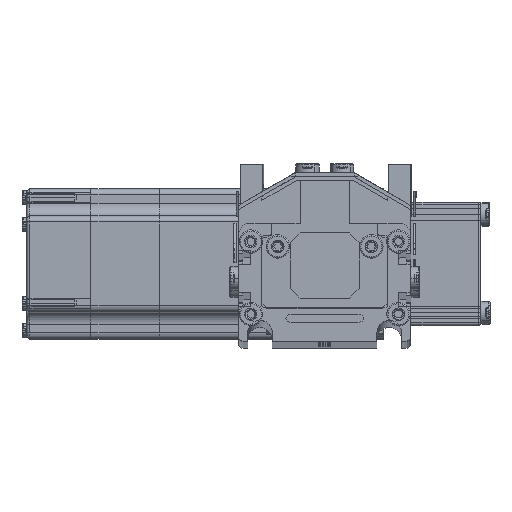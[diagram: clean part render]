
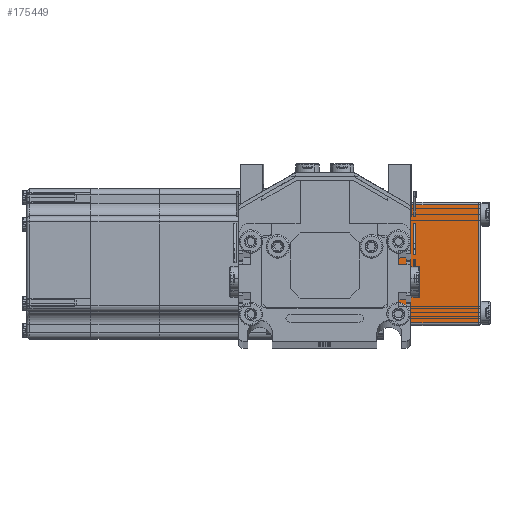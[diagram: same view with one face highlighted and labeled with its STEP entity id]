
A CAD part, top view. The second image highlights one B-rep face of the part: STEP entity #175449.
In plain terms, the highlighted planar face has unit normal (0, 0, 1) as drawn and (-1, 0, 0) by its records, which use the part's own axes.
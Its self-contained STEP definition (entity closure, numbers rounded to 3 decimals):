
#61481 = CARTESIAN_POINT ( 'NONE',  ( -50., -24., 0. ) ) ;
#62781 = DIRECTION ( 'NONE',  ( 1., 0., 0. ) ) ;
#62782 = CARTESIAN_POINT ( 'NONE',  ( -50., 25., 39.5 ) ) ;
#62796 = AXIS2_PLACEMENT_3D ( 'NONE', #62782, #62781, #62816 ) ;
#62802 = CARTESIAN_POINT ( 'NONE',  ( -50., -24., 38.5 ) ) ;
#62816 = DIRECTION ( 'NONE',  ( 0., 1., 0. ) ) ;
#62825 = PLANE ( 'NONE',  #62796 ) ;
#62831 = DIRECTION ( 'NONE',  ( 0., 0., 1. ) ) ;
#62832 = VECTOR ( 'NONE', #62831, 1000. ) ;
#62844 = CARTESIAN_POINT ( 'NONE',  ( -50., -24., 39.5 ) ) ;
#62845 = LINE ( 'NONE', #62844, #62832 ) ;
#62909 = FACE_OUTER_BOUND ( 'NONE', #175446, .T. ) ;
#62917 = VECTOR ( 'NONE', #63080, 1000. ) ;
#62925 = DIRECTION ( 'NONE',  ( 0., 0., -1. ) ) ;
#62926 = VECTOR ( 'NONE', #62925, 1000. ) ;
#62928 = CARTESIAN_POINT ( 'NONE',  ( -50., 24., 39.5 ) ) ;
#62943 = LINE ( 'NONE', #62928, #62926 ) ;
#62947 = DIRECTION ( 'NONE',  ( 0., 1., 0. ) ) ;
#62949 = VECTOR ( 'NONE', #62947, 1000. ) ;
#62951 = CARTESIAN_POINT ( 'NONE',  ( -50., 25., 38.5 ) ) ;
#62952 = LINE ( 'NONE', #62951, #62949 ) ;
#62955 = LINE ( 'NONE', #63002, #62917 ) ;
#63002 = CARTESIAN_POINT ( 'NONE',  ( -50., 25., 0. ) ) ;
#63080 = DIRECTION ( 'NONE',  ( 0., -1., 0. ) ) ;
#63141 = CARTESIAN_POINT ( 'NONE',  ( -50., 24., 38.5 ) ) ;
#63155 = CARTESIAN_POINT ( 'NONE',  ( -50., 24., 0. ) ) ;
#175339 = VERTEX_POINT ( 'NONE', #61481 ) ;
#175428 = ORIENTED_EDGE ( 'NONE', *, *, #175479, .T. ) ;
#175437 = EDGE_CURVE ( 'NONE', #175339, #175447, #62845, .T. ) ;
#175446 = EDGE_LOOP ( 'NONE', ( #175428, #175505, #175464, #175455 ) ) ;
#175447 = VERTEX_POINT ( 'NONE', #62802 ) ;
#175449 = ADVANCED_FACE ( 'NONE', ( #62909 ), #62825, .F. ) ;
#175455 = ORIENTED_EDGE ( 'NONE', *, *, #175465, .T. ) ;
#175457 = EDGE_CURVE ( 'NONE', #175447, #175503, #62952, .T. ) ;
#175464 = ORIENTED_EDGE ( 'NONE', *, *, #175457, .T. ) ;
#175465 = EDGE_CURVE ( 'NONE', #175503, #175496, #62943, .T. ) ;
#175479 = EDGE_CURVE ( 'NONE', #175496, #175339, #62955, .T. ) ;
#175496 = VERTEX_POINT ( 'NONE', #63155 ) ;
#175503 = VERTEX_POINT ( 'NONE', #63141 ) ;
#175505 = ORIENTED_EDGE ( 'NONE', *, *, #175437, .T. ) ;
